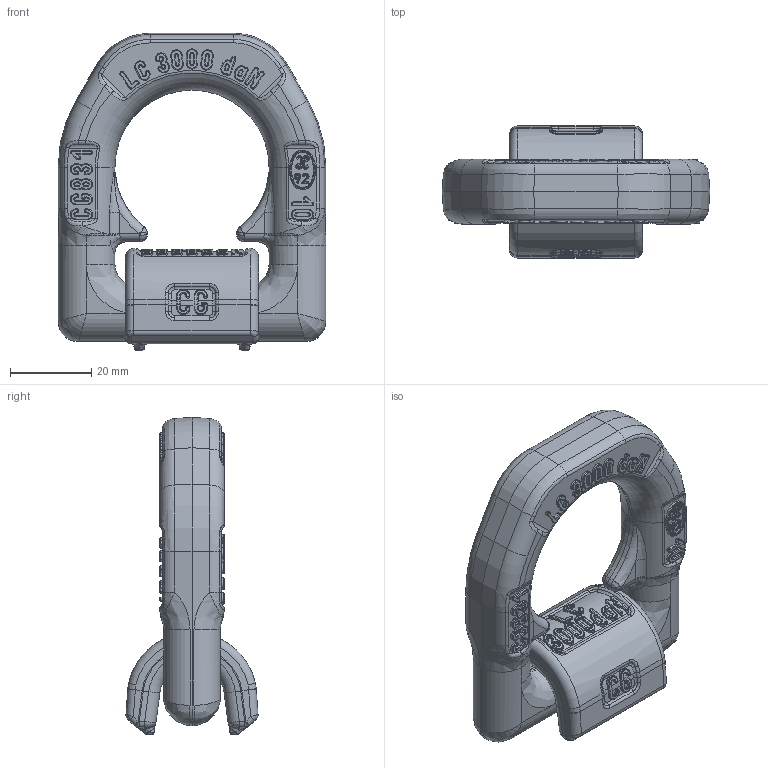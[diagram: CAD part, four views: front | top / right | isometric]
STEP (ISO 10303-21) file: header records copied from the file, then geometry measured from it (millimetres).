
FILE_DESCRIPTION(/* description */ (''),/* implementation_level */ '2;1');
FILE_NAME(/* name */ 'C831X03.stp',/* time_stamp */ '2013-06-05T16:05:18+02:00',/* author */ (''),/* organization */ (''),/* preprocessor_version */ 'ST-DEVELOPER v11',/* originating_system */ 'SIEMENS PLM Software NX 7.5',/* authorisation */ '');
FILE_SCHEMA (('CONFIG_CONTROL_DESIGN'));
Length unit declared in the file: millimetre
Products named in the file (1): ugii64F4wp1i
Bounding box: 66 x 32.55 x 78.2 mm (x, y, z)
Volume: 47795.1 mm3; surface area: 15433.9 mm2
Topology: 2 solids, 2 shells, 1657 faces, 3883 edges, 2277 vertices
Faces by surface type: cylinder 475, bspline 469, plane 401, extrusion 155, torus 133, cone 16, sphere 8
Entity records: 71562 total; most frequent: CARTESIAN_POINT 35954, ORIENTED_EDGE 7726, DIRECTION 6995, EDGE_CURVE 3863, AXIS2_PLACEMENT_3D 2680, VERTEX_POINT 2276, EDGE_LOOP 1725, ADVANCED_FACE 1657
